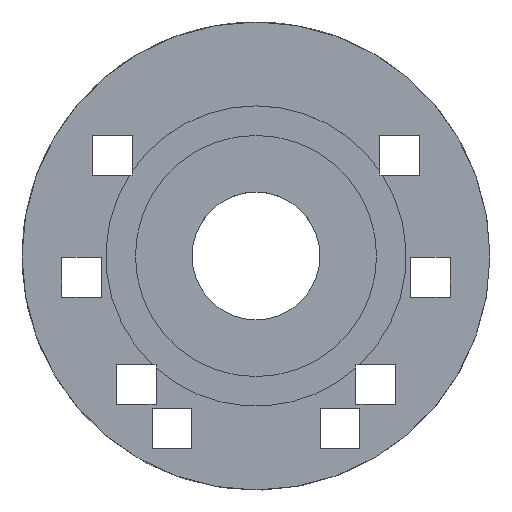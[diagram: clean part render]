
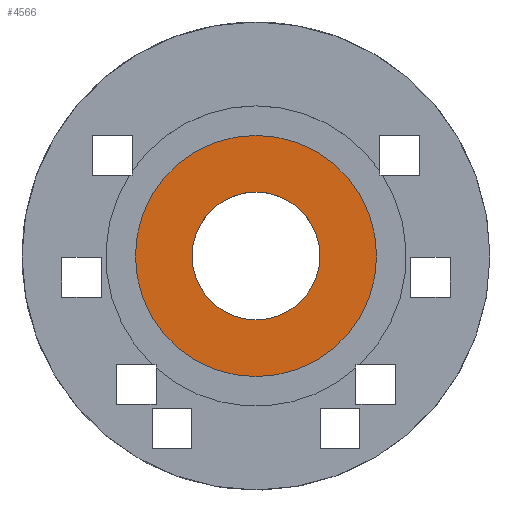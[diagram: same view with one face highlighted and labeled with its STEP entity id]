
A CAD part, top view. The second image highlights one B-rep face of the part: STEP entity #4566.
In plain terms, the highlighted planar face has unit normal (0, 0, 1).
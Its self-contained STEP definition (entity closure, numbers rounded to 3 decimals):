
#3620 = CYLINDRICAL_SURFACE('',#3621,8.);
#3621 = AXIS2_PLACEMENT_3D('',#3622,#3623,#3624);
#3622 = CARTESIAN_POINT('',(0.,0.,0.));
#3623 = DIRECTION('',(-0.,-0.,-1.));
#3624 = DIRECTION('',(1.,0.,0.));
#4467 = VERTEX_POINT('',#4468);
#4468 = CARTESIAN_POINT('',(8.,0.,8.));
#4489 = EDGE_CURVE('',#4467,#4467,#4490,.T.);
#4490 = SURFACE_CURVE('',#4491,(#4496,#4503),.PCURVE_S1.);
#4491 = CIRCLE('',#4492,8.);
#4492 = AXIS2_PLACEMENT_3D('',#4493,#4494,#4495);
#4493 = CARTESIAN_POINT('',(0.,0.,8.));
#4494 = DIRECTION('',(0.,0.,-1.));
#4495 = DIRECTION('',(1.,0.,0.));
#4496 = PCURVE('',#3620,#4497);
#4497 = DEFINITIONAL_REPRESENTATION('',(#4498),#4502);
#4498 = LINE('',#4499,#4500);
#4499 = CARTESIAN_POINT('',(-6.283,-8.));
#4500 = VECTOR('',#4501,1.);
#4501 = DIRECTION('',(1.,-0.));
#4502 = ( GEOMETRIC_REPRESENTATION_CONTEXT(2) 
PARAMETRIC_REPRESENTATION_CONTEXT() REPRESENTATION_CONTEXT('2D SPACE',''
  ) );
#4503 = PCURVE('',#4504,#4509);
#4504 = PLANE('',#4505);
#4505 = AXIS2_PLACEMENT_3D('',#4506,#4507,#4508);
#4506 = CARTESIAN_POINT('',(0.,0.,8.)
  );
#4507 = DIRECTION('',(0.,0.,1.));
#4508 = DIRECTION('',(1.,0.,-0.));
#4509 = DEFINITIONAL_REPRESENTATION('',(#4510),#4518);
#4510 = ( BOUNDED_CURVE() B_SPLINE_CURVE(2,(#4511,#4512,#4513,#4514,
#4515,#4516,#4517),.UNSPECIFIED.,.T.,.F.) B_SPLINE_CURVE_WITH_KNOTS((1,2
    ,2,2,2,1),(-2.094,0.,2.094,4.189,
6.283,8.378),.UNSPECIFIED.) CURVE() 
GEOMETRIC_REPRESENTATION_ITEM() RATIONAL_B_SPLINE_CURVE((1.,0.5,1.,0.5,
1.,0.5,1.)) REPRESENTATION_ITEM('') );
#4511 = CARTESIAN_POINT('',(8.,0.));
#4512 = CARTESIAN_POINT('',(8.,-13.856));
#4513 = CARTESIAN_POINT('',(-4.,-6.928));
#4514 = CARTESIAN_POINT('',(-16.,0.));
#4515 = CARTESIAN_POINT('',(-4.,6.928));
#4516 = CARTESIAN_POINT('',(8.,13.856));
#4517 = CARTESIAN_POINT('',(8.,0.));
#4518 = ( GEOMETRIC_REPRESENTATION_CONTEXT(2) 
PARAMETRIC_REPRESENTATION_CONTEXT() REPRESENTATION_CONTEXT('2D SPACE',''
  ) );
#4555 = CYLINDRICAL_SURFACE('',#4556,15.1);
#4556 = AXIS2_PLACEMENT_3D('',#4557,#4558,#4559);
#4557 = CARTESIAN_POINT('',(0.,0.,6.3));
#4558 = DIRECTION('',(-0.,-0.,-1.));
#4559 = DIRECTION('',(1.,0.,0.));
#4566 = ADVANCED_FACE('',(#4567,#4597),#4504,.T.);
#4567 = FACE_BOUND('',#4568,.T.);
#4568 = EDGE_LOOP('',(#4569));
#4569 = ORIENTED_EDGE('',*,*,#4570,.F.);
#4570 = EDGE_CURVE('',#4571,#4571,#4573,.T.);
#4571 = VERTEX_POINT('',#4572);
#4572 = CARTESIAN_POINT('',(15.1,0.,8.));
#4573 = SURFACE_CURVE('',#4574,(#4579,#4590),.PCURVE_S1.);
#4574 = CIRCLE('',#4575,15.1);
#4575 = AXIS2_PLACEMENT_3D('',#4576,#4577,#4578);
#4576 = CARTESIAN_POINT('',(0.,0.,8.));
#4577 = DIRECTION('',(0.,0.,-1.));
#4578 = DIRECTION('',(1.,0.,0.));
#4579 = PCURVE('',#4504,#4580);
#4580 = DEFINITIONAL_REPRESENTATION('',(#4581),#4589);
#4581 = ( BOUNDED_CURVE() B_SPLINE_CURVE(2,(#4582,#4583,#4584,#4585,
#4586,#4587,#4588),.UNSPECIFIED.,.T.,.F.) B_SPLINE_CURVE_WITH_KNOTS((1,2
    ,2,2,2,1),(-2.094,0.,2.094,4.189,
6.283,8.378),.UNSPECIFIED.) CURVE() 
GEOMETRIC_REPRESENTATION_ITEM() RATIONAL_B_SPLINE_CURVE((1.,0.5,1.,0.5,
1.,0.5,1.)) REPRESENTATION_ITEM('') );
#4582 = CARTESIAN_POINT('',(15.1,0.));
#4583 = CARTESIAN_POINT('',(15.1,-26.154));
#4584 = CARTESIAN_POINT('',(-7.55,-13.077));
#4585 = CARTESIAN_POINT('',(-30.2,0.));
#4586 = CARTESIAN_POINT('',(-7.55,13.077));
#4587 = CARTESIAN_POINT('',(15.1,26.154));
#4588 = CARTESIAN_POINT('',(15.1,0.));
#4589 = ( GEOMETRIC_REPRESENTATION_CONTEXT(2) 
PARAMETRIC_REPRESENTATION_CONTEXT() REPRESENTATION_CONTEXT('2D SPACE',''
  ) );
#4590 = PCURVE('',#4555,#4591);
#4591 = DEFINITIONAL_REPRESENTATION('',(#4592),#4596);
#4592 = LINE('',#4593,#4594);
#4593 = CARTESIAN_POINT('',(-6.283,-1.7));
#4594 = VECTOR('',#4595,1.);
#4595 = DIRECTION('',(1.,-0.));
#4596 = ( GEOMETRIC_REPRESENTATION_CONTEXT(2) 
PARAMETRIC_REPRESENTATION_CONTEXT() REPRESENTATION_CONTEXT('2D SPACE',''
  ) );
#4597 = FACE_BOUND('',#4598,.T.);
#4598 = EDGE_LOOP('',(#4599));
#4599 = ORIENTED_EDGE('',*,*,#4489,.T.);
